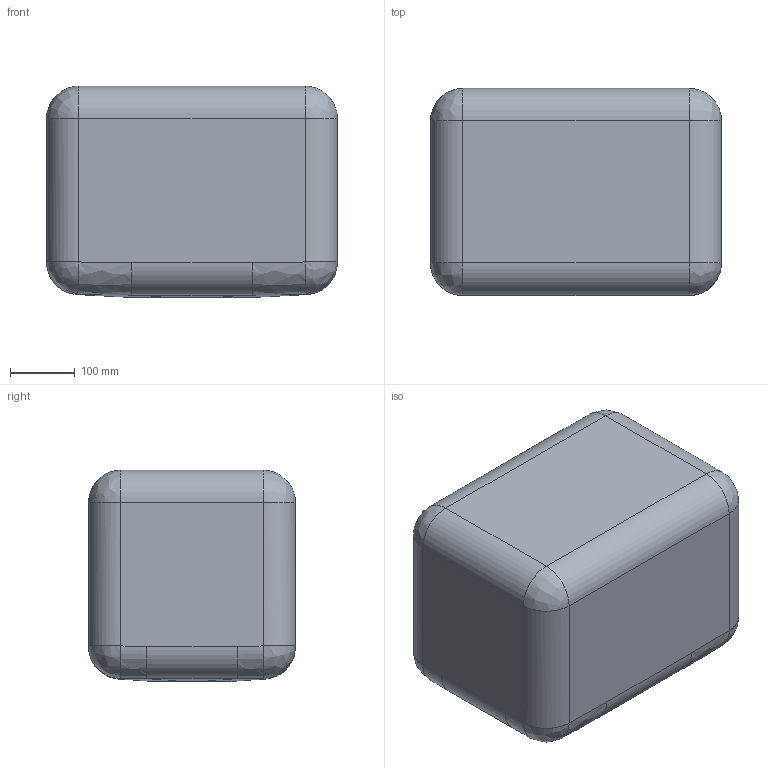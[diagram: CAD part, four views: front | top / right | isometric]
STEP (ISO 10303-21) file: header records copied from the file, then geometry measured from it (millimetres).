
FILE_DESCRIPTION(/* description */ (''),/* implementation_level */ '2;1');
FILE_NAME(/* name */ '450x320',/* time_stamp */ '2024-03-12T17:06:06+01:00',/* author */ (''),/* organization */ (''),/* preprocessor_version */ 'ST-DEVELOPER v16.5',/* originating_system */ 'Rhino 7.35',/* authorisation */ '');
FILE_SCHEMA (('AUTOMOTIVE_DESIGN'));
Length unit declared in the file: millimetre
Products named in the file (1): Document
Bounding box: 450 x 320 x 327.5 mm (x, y, z)
Surface area: 1300151.9 mm2 (no closed solid volume)
Topology: 0 solids, 1 shells, 135 faces, 312 edges, 164 vertices
Faces by surface type: bspline 135
Entity records: 12893 total; most frequent: CARTESIAN_POINT 9206, B_SPLINE_CURVE_WITH_KNOTS 680, ORIENTED_EDGE 592, PCURVE 592, DEFINITIONAL_REPRESENTATION 592, SURFACE_CURVE 304, EDGE_CURVE 304, VERTEX_POINT 164
